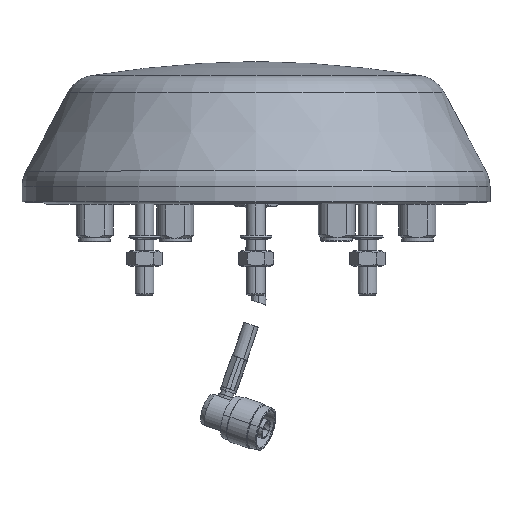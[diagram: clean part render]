
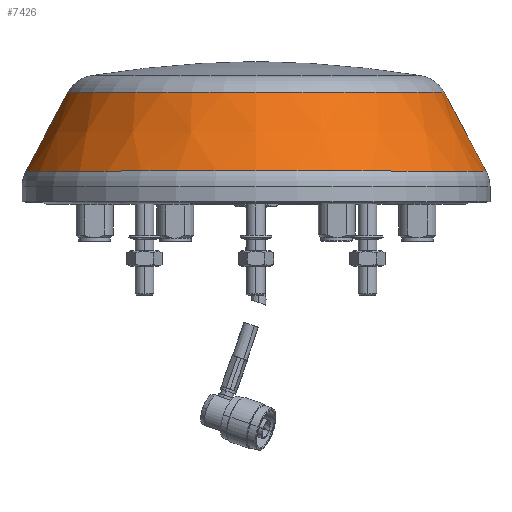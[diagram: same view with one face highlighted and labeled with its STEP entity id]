
A CAD part, top view. The second image highlights one B-rep face of the part: STEP entity #7426.
In plain terms, the highlighted conical face has half-angle 28 degrees and reference radius 100 mm.
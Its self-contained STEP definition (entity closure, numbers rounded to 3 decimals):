
#829 = EDGE_CURVE ( 'NONE', #15992, #9599, #16153, .T. ) ;
#1274 = ORIENTED_EDGE ( 'NONE', *, *, #45399, .T. ) ;
#2605 = DIRECTION ( 'NONE',  ( -1., 0., 0. ) ) ;
#5534 = CONICAL_SURFACE ( 'NONE', #24569, 100., 0.489 ) ;
#7210 = VERTEX_POINT ( 'NONE', #25887 ) ;
#7426 = ADVANCED_FACE ( 'NONE', ( #27335 ), #5534, .T. ) ;
#9160 = CIRCLE ( 'NONE', #27957, 98.361 ) ;
#9599 = VERTEX_POINT ( 'NONE', #50749 ) ;
#11391 = CARTESIAN_POINT ( 'NONE',  ( 80.473, 46.726, 0. ) ) ;
#11878 = VERTEX_POINT ( 'NONE', #21584 ) ;
#14296 = VECTOR ( 'NONE', #51481, 1000. ) ;
#15528 = CARTESIAN_POINT ( 'NONE',  ( -100., 10., 0. ) ) ;
#15992 = VERTEX_POINT ( 'NONE', #11391 ) ;
#16153 = LINE ( 'NONE', #50946, #14296 ) ;
#21034 = DIRECTION ( 'NONE',  ( 0., -1., 0. ) ) ;
#21584 = CARTESIAN_POINT ( 'NONE',  ( -80.473, 46.726, 0. ) ) ;
#23722 = AXIS2_PLACEMENT_3D ( 'NONE', #45549, #21034, #49653 ) ;
#23898 = DIRECTION ( 'NONE',  ( -0.469, -0.883, 0. ) ) ;
#24569 = AXIS2_PLACEMENT_3D ( 'NONE', #51779, #35837, #39993 ) ;
#25869 = ORIENTED_EDGE ( 'NONE', *, *, #32288, .T. ) ;
#25887 = CARTESIAN_POINT ( 'NONE',  ( -98.361, 13.082, 0. ) ) ;
#27335 = FACE_OUTER_BOUND ( 'NONE', #44090, .T. ) ;
#27957 = AXIS2_PLACEMENT_3D ( 'NONE', #35353, #34645, #2605 ) ;
#32288 = EDGE_CURVE ( 'NONE', #11878, #7210, #35512, .T. ) ;
#34645 = DIRECTION ( 'NONE',  ( 0., 1., 0. ) ) ;
#35353 = CARTESIAN_POINT ( 'NONE',  ( 0., 13.082, 0. ) ) ;
#35512 = LINE ( 'NONE', #15528, #52794 ) ;
#35837 = DIRECTION ( 'NONE',  ( 0., -1., 0. ) ) ;
#39993 = DIRECTION ( 'NONE',  ( 1., 0., 0. ) ) ;
#41105 = ORIENTED_EDGE ( 'NONE', *, *, #829, .F. ) ;
#44090 = EDGE_LOOP ( 'NONE', ( #50573, #25869, #1274, #41105 ) ) ;
#45399 = EDGE_CURVE ( 'NONE', #7210, #9599, #9160, .T. ) ;
#45549 = CARTESIAN_POINT ( 'NONE',  ( 0., 46.726, 0. ) ) ;
#49653 = DIRECTION ( 'NONE',  ( -1., 0., 0. ) ) ;
#50175 = EDGE_CURVE ( 'NONE', #15992, #11878, #51445, .T. ) ;
#50573 = ORIENTED_EDGE ( 'NONE', *, *, #50175, .T. ) ;
#50749 = CARTESIAN_POINT ( 'NONE',  ( 98.361, 13.082, 0. ) ) ;
#50946 = CARTESIAN_POINT ( 'NONE',  ( 100., 10., 0. ) ) ;
#51445 = CIRCLE ( 'NONE', #23722, 80.473 ) ;
#51481 = DIRECTION ( 'NONE',  ( 0.469, -0.883, 0. ) ) ;
#51779 = CARTESIAN_POINT ( 'NONE',  ( 0., 10., 0. ) ) ;
#52794 = VECTOR ( 'NONE', #23898, 1000. ) ;
